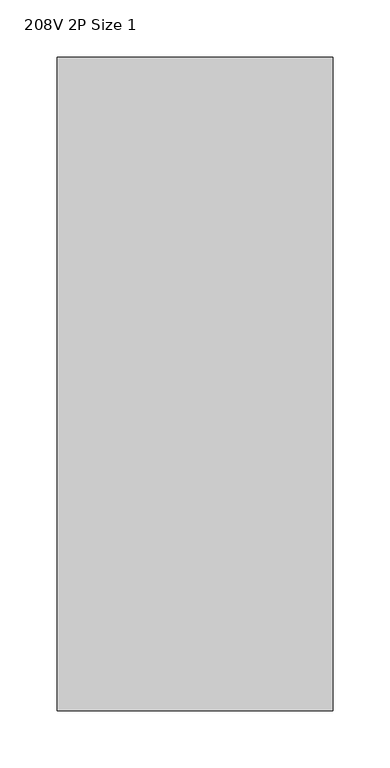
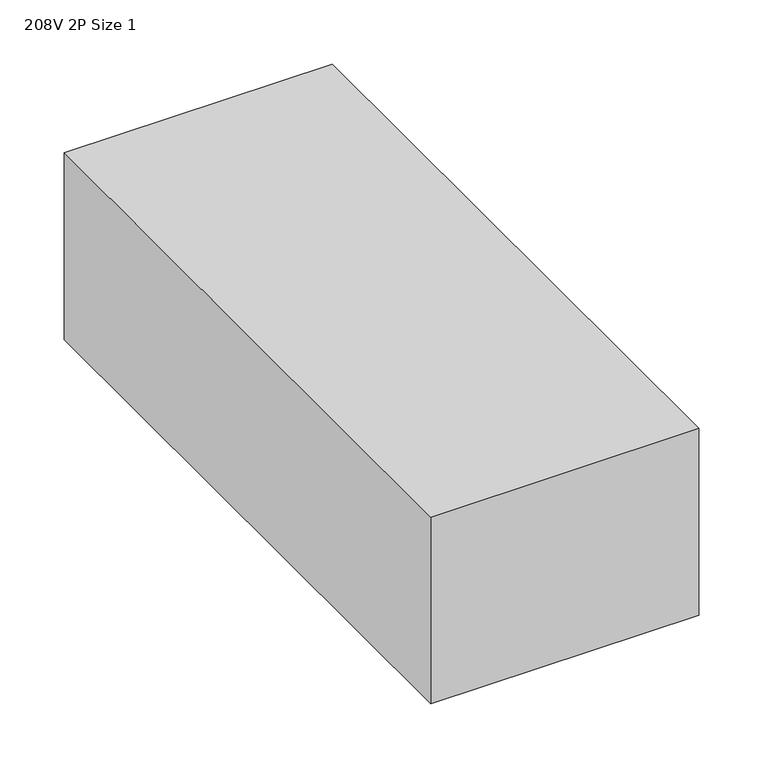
"""IFC4 building model written with IfcOpenShell, lengths in millimetres: proxy geometry, OMAHA - Combination Starter - Disconnect Switches : 208V 2P Size 1."""

from ifc_helpers import new_model, si_unit, origin, origin_with_axes, place, context, project, spatial, polyline, outline, extrude, source, transform, mapped, element, save


def proxy_208v_2p_size_1_795ca2ca(model_context):
    return source(origin(), model_context, "Body", "SweptSolid", [
        extrude(outline(polyline([(-82.55, 0.0), (-82.55, -571.5), (-323.85, -571.5), (-323.85, 0.0), (-82.55, 0.0)])), origin_with_axes(), (0.0, 0.0, 1.0), 177.8),
    ])


if __name__ == "__main__":
    model = new_model("IFC4")
    model_context = context("Model", 3, world=origin())
    ifc_project = project(units=[si_unit("LENGTHUNIT", "METRE", prefix="MILLI")], contexts=[model_context])
    site = spatial("IfcSite", under=ifc_project)
    building = spatial("IfcBuilding", under=site)
    placement = place(None, origin())
    proxy_208v_2p_size_1_shape = proxy_208v_2p_size_1_795ca2ca(model_context)
    element("IfcBuildingElementProxy", 1, Name="OMAHA - Combination Starter - Disconnect Switches : 208V 2P Size 1", ObjectType="OMAHA - Combination Starter - Disconnect Switches : 208V 2P Size 1", at=placement, inside=building, context=model_context, shape_type="MappedRepresentation", body=[
        mapped(proxy_208v_2p_size_1_shape, transform((0.0, 0.0, 0.0), x_axis=(1.0, 0.0, 0.0), y_axis=(0.0, 1.0, 0.0), z_axis=(0.0, 0.0, 1.0))),
    ])
    save(model, "model.ifc")
